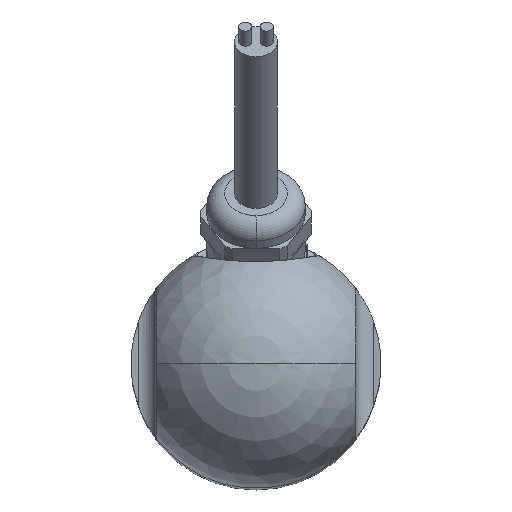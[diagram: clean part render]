
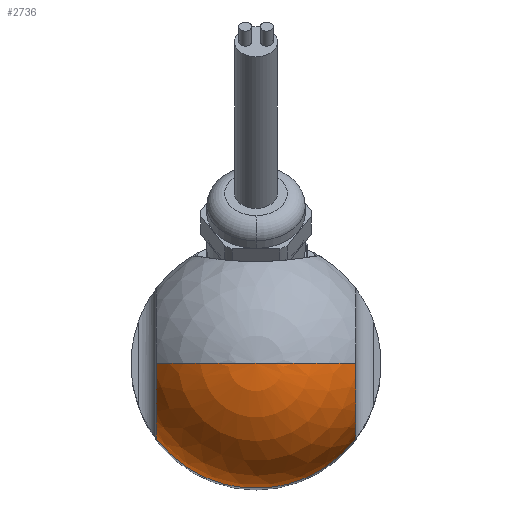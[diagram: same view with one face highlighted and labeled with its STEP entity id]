
A CAD part, top view. The second image highlights one B-rep face of the part: STEP entity #2736.
In plain terms, the highlighted spherical face has radius 17.5 mm.
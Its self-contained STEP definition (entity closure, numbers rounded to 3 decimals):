
#10=CARTESIAN_POINT('',(0.,0.,130.));
#11=DIRECTION('',(0.,0.,-1.));
#12=DIRECTION('',(0.8,-0.6,0.));
#13=AXIS2_PLACEMENT_3D('',#10,#11,#12);
#671=CARTESIAN_POINT('',(0.,0.,130.));
#672=DIRECTION('',(0.,1.,0.));
#673=DIRECTION('',(0.,0.,1.));
#674=AXIS2_PLACEMENT_3D('',#671,#672,#673);
#676=CARTESIAN_POINT('',(0.,0.,130.));
#677=DIRECTION('',(0.,-1.,0.));
#678=DIRECTION('',(0.,0.,1.));
#679=AXIS2_PLACEMENT_3D('',#676,#677,#678);
#728=CARTESIAN_POINT('',(14.,0.,130.));
#729=DIRECTION('',(-1.,0.,0.));
#730=DIRECTION('',(0.,-1.,0.));
#731=AXIS2_PLACEMENT_3D('',#728,#729,#730);
#733=CARTESIAN_POINT('',(-14.,0.,130.));
#734=DIRECTION('',(1.,0.,0.));
#735=DIRECTION('',(0.,0.,1.));
#736=AXIS2_PLACEMENT_3D('',#733,#734,#735);
#1400=CARTESIAN_POINT('',(14.,-10.5,130.));
#1401=CARTESIAN_POINT('',(14.,0.,140.5));
#1402=VERTEX_POINT('',#1400);
#1403=VERTEX_POINT('',#1401);
#1404=CARTESIAN_POINT('',(-14.,0.,140.5));
#1405=CARTESIAN_POINT('',(-14.,-10.5,130.));
#1406=VERTEX_POINT('',#1404);
#1407=VERTEX_POINT('',#1405);
#1414=CARTESIAN_POINT('',(0.,0.,147.5));
#1415=VERTEX_POINT('',#1414);
#2723=CARTESIAN_POINT('',(0.,0.,130.));
#2724=DIRECTION('',(0.,0.,-1.));
#2725=DIRECTION('',(1.,0.,0.));
#2726=AXIS2_PLACEMENT_3D('',#2723,#2724,#2725);
#2727=SPHERICAL_SURFACE('',#2726,17.5);
#2728=ORIENTED_EDGE('',*,*,#2686,.F.);
#2729=ORIENTED_EDGE('',*,*,#1709,.T.);
#2731=ORIENTED_EDGE('',*,*,#2730,.F.);
#2732=ORIENTED_EDGE('',*,*,#2670,.F.);
#2733=ORIENTED_EDGE('',*,*,#2668,.T.);
#2734=EDGE_LOOP('',(#2728,#2729,#2731,#2732,#2733));
#2735=FACE_OUTER_BOUND('',#2734,.F.);
#14=CIRCLE('',#13,17.5);
#675=CIRCLE('',#674,17.5);
#680=CIRCLE('',#679,17.5);
#732=CIRCLE('',#731,10.5);
#737=CIRCLE('',#736,10.5);
#1709=EDGE_CURVE('',#1402,#1407,#14,.T.);
#2668=EDGE_CURVE('',#1415,#1403,#675,.T.);
#2670=EDGE_CURVE('',#1415,#1406,#680,.T.);
#2686=EDGE_CURVE('',#1402,#1403,#732,.T.);
#2730=EDGE_CURVE('',#1406,#1407,#737,.T.);
#2736=ADVANCED_FACE('',(#2735),#2727,.T.);
